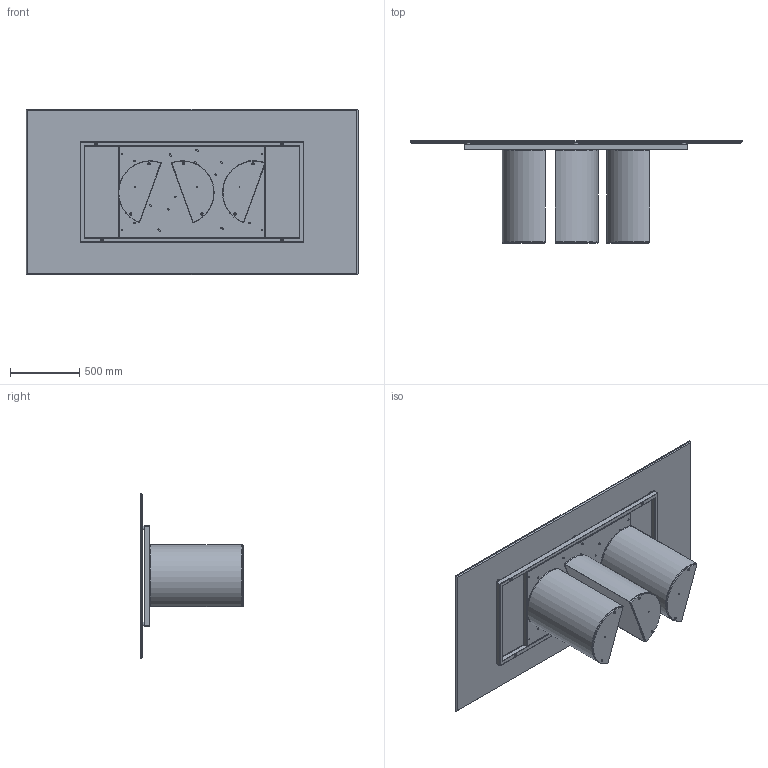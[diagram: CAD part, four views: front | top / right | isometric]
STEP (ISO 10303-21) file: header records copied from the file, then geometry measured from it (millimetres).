
FILE_DESCRIPTION (( 'STEP AP203' ), '1' );
FILE_NAME ('PL22C.STEP', '2024-08-07T13:51:58', ( '' ), ( '' ), 'SwSTEP 2.0', 'SolidWorks 2022', '' );
FILE_SCHEMA (( 'CONFIG_CONTROL_DESIGN' ));
Length unit declared in the file: millimetre
Products named in the file (14): M8xXXmm_hex_M8X20mm; PL22C; M8xXXmm_M8x20mm; K2XCMXX-00-Piani Rettangolari in ceramica_2390 x 1190; M8xXXmm_hex_M8X60mm; TTAV0601_02-00-VASSOIO TAVOLI PLAI ONDA NOA 240; TTAV0601-00-TELAIO X TAVOLI PLAI ONDA NOA 240cm_TTAV06; TTAV0601_01-00-STRUTTURA X TAVOLI PLAI ONDA NOA 240; PLA000000ZOC-01-PLAI ZOCCOLO DELLA BASE; 434070-00-PIEDINO TPV GOMMA NERO D. 30x8max18_filo estetico; rondella M8_8X24; PLA000000BAS-00-PLAI BASE GREZZA; Assieme Basamento PLAI_Basamento per tavoli; COLLO TELAIO UNIVERSALE TTAV0601 CON FERRAMENTA_FERRAMENTA MTG TOP CRISTALLO VERNICIATO-CERAMICA
Assembly tree (30 placements, depth 4):
  PL22C
    COLLO TELAIO UNIVERSALE TTAV0601 CON FERRAMENTA_FERRAMENTA MTG TOP CRISTALLO VERNICIATO-CERAMICA
      TTAV0601-00-TELAIO X TAVOLI PLAI ONDA NOA 240cm_TTAV06
        TTAV0601_02-00-VASSOIO TAVOLI PLAI ONDA NOA 240
        TTAV0601_01-00-STRUTTURA X TAVOLI PLAI ONDA NOA 240
      434070-00-PIEDINO TPV GOMMA NERO D. 30x8max18_filo estetico  x6
    Assieme Basamento PLAI_Basamento per tavoli  x3
      PLA000000BAS-00-PLAI BASE GREZZA
      PLA000000ZOC-01-PLAI ZOCCOLO DELLA BASE
      M8xXXmm_hex_M8X60mm
      M8xXXmm_hex_M8X20mm
    rondella M8_8X24  x6
    M8xXXmm_M8x20mm  x6
    K2XCMXX-00-Piani Rettangolari in ceramica_2390 x 1190
Bounding box: 2390 x 740 x 1190 mm (x, y, z)
Volume: 58050842.4 mm3; surface area: 20104682.6 mm2
Topology: 49 solids, 49 shells, 1130 faces, 2534 edges, 1484 vertices
Faces by surface type: plane 481, cylinder 333, cone 200, torus 108, sphere 8
Entity records: 19107 total; most frequent: DIRECTION 3153, CARTESIAN_POINT 2978, ORIENTED_EDGE 2792, EDGE_CURVE 1396, AXIS2_PLACEMENT_3D 1165, VERTEX_POINT 840, LINE 823, VECTOR 823
